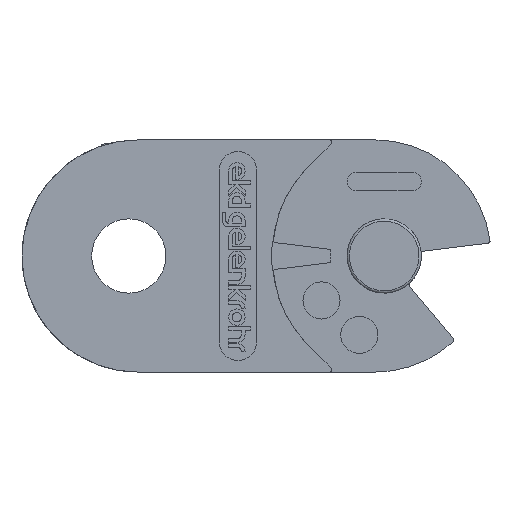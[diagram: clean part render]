
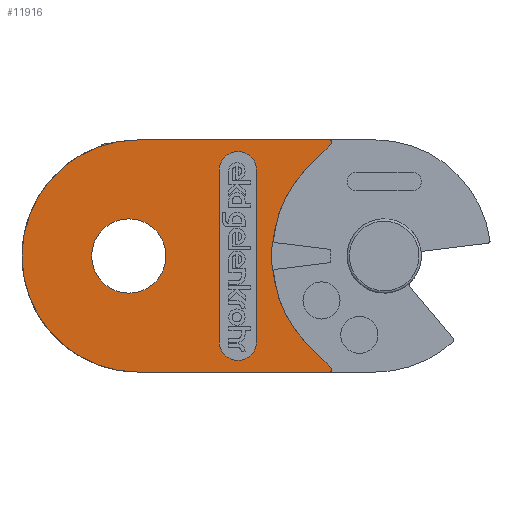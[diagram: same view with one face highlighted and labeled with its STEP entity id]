
A CAD part, left-side view. The second image highlights one B-rep face of the part: STEP entity #11916.
In plain terms, the highlighted planar face has unit normal (-1, 0, 0) as drawn and (1, 0, 0) by its records, which use the part's own axes.
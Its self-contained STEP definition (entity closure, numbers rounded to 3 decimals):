
#7971=CARTESIAN_POINT('',(0.0,-25.5,50.));
#7972=VERTEX_POINT('',#7971);
#7979=CARTESIAN_POINT('',(0.0,15.73,50.));
#7980=VERTEX_POINT('',#7979);
#7981=CARTESIAN_POINT('',(0.0,-25.5,50.));
#7982=DIRECTION('',(0.0,1.0,0.0));
#7983=VECTOR('',#7982,41.23);
#7984=LINE('',#7981,#7983);
#7985=EDGE_CURVE('',#7972,#7980,#7984,.T.);
#11241=CARTESIAN_POINT('',(0.,0.,43.5));
#11242=VERTEX_POINT('',#11241);
#11249=CARTESIAN_POINT('',(0.,-8.,43.5));
#11250=VERTEX_POINT('',#11249);
#11251=CARTESIAN_POINT('',(0.,-4.,43.5));
#11252=DIRECTION('',(-1.0,0.0,0.0));
#11253=DIRECTION('',(0.0,-1.0,0.0));
#11254=AXIS2_PLACEMENT_3D('',#11251,#11252,#11253);
#11255=CIRCLE('',#11254,4.);
#11256=EDGE_CURVE('',#11250,#11242,#11255,.T.);
#11273=CARTESIAN_POINT('',(0.,-8.,6.5));
#11274=VERTEX_POINT('',#11273);
#11281=CARTESIAN_POINT('',(0.,0.,6.5));
#11282=VERTEX_POINT('',#11281);
#11283=CARTESIAN_POINT('',(0.,-4.,6.5));
#11284=DIRECTION('',(-1.0,0.0,0.0));
#11285=DIRECTION('',(0.0,1.0,0.0));
#11286=AXIS2_PLACEMENT_3D('',#11283,#11284,#11285);
#11287=CIRCLE('',#11286,4.);
#11288=EDGE_CURVE('',#11282,#11274,#11287,.T.);
#11789=CARTESIAN_POINT('',(0.,-8.,6.5));
#11790=DIRECTION('',(0.0,0.0,1.0));
#11791=VECTOR('',#11790,37.);
#11792=LINE('',#11789,#11791);
#11793=EDGE_CURVE('',#11274,#11250,#11792,.T.);
#11804=CARTESIAN_POINT('',(0.,0.,43.5));
#11805=DIRECTION('',(0.0,0.0,-1.0));
#11806=VECTOR('',#11805,37.);
#11807=LINE('',#11804,#11806);
#11808=EDGE_CURVE('',#11242,#11282,#11807,.T.);
#11815=CARTESIAN_POINT('',(0.0,1.743,25.006));
#11816=DIRECTION('',(1.0,0.0,0.0));
#11817=DIRECTION('',(0.0,1.0,0.0));
#11818=AXIS2_PLACEMENT_3D('',#11815,#11816,#11817);
#11819=PLANE('',#11818);
#11820=CARTESIAN_POINT('',(0.0,15.73,0.));
#11821=VERTEX_POINT('',#11820);
#11822=CARTESIAN_POINT('',(0.0,-25.5,0.));
#11823=VERTEX_POINT('',#11822);
#11824=CARTESIAN_POINT('',(0.0,15.73,0.));
#11825=DIRECTION('',(0.0,-1.0,0.0));
#11826=VECTOR('',#11825,41.23);
#11827=LINE('',#11824,#11826);
#11828=EDGE_CURVE('',#11821,#11823,#11827,.T.);
#11829=ORIENTED_EDGE('',*,*,#11828,.F.);
#11830=CARTESIAN_POINT('',(0.0,16.084,0.854));
#11831=VERTEX_POINT('',#11830);
#11832=CARTESIAN_POINT('',(0.0,15.73,0.5));
#11833=DIRECTION('',(1.0,0.0,0.0));
#11834=DIRECTION('',(0.0,0.0,1.0));
#11835=AXIS2_PLACEMENT_3D('',#11832,#11833,#11834);
#11836=CIRCLE('',#11835,0.5);
#11837=EDGE_CURVE('',#11821,#11831,#11836,.T.);
#11838=ORIENTED_EDGE('',*,*,#11837,.T.);
#11839=CARTESIAN_POINT('',(0.0,10.969,5.969));
#11840=VERTEX_POINT('',#11839);
#11841=CARTESIAN_POINT('',(0.0,16.084,0.854));
#11842=DIRECTION('',(0.0,-0.707,0.707));
#11843=VECTOR('',#11842,7.234);
#11844=LINE('',#11841,#11843);
#11845=EDGE_CURVE('',#11831,#11840,#11844,.T.);
#11846=ORIENTED_EDGE('',*,*,#11845,.T.);
#11847=CARTESIAN_POINT('',(0.0,3.907,19.46));
#11848=VERTEX_POINT('',#11847);
#11849=CARTESIAN_POINT('',(0.0,29.,24.));
#11850=DIRECTION('',(-1.0,0.,0.));
#11851=DIRECTION('',(0.,-1.0,0.));
#11852=AXIS2_PLACEMENT_3D('',#11849,#11850,#11851);
#11853=CIRCLE('',#11852,25.5);
#11854=EDGE_CURVE('',#11840,#11848,#11853,.T.);
#11855=ORIENTED_EDGE('',*,*,#11854,.T.);
#11856=CARTESIAN_POINT('',(0.0,3.907,30.54));
#11857=VERTEX_POINT('',#11856);
#11858=CARTESIAN_POINT('',(0.,27.5,25.));
#11859=DIRECTION('',(-1.0,0.,0.));
#11860=DIRECTION('',(0.,-0.974,0.229));
#11861=AXIS2_PLACEMENT_3D('',#11858,#11859,#11860);
#11862=CIRCLE('',#11861,24.234);
#11863=EDGE_CURVE('',#11848,#11857,#11862,.T.);
#11864=ORIENTED_EDGE('',*,*,#11863,.T.);
#11865=CARTESIAN_POINT('',(0.0,10.969,44.031));
#11866=VERTEX_POINT('',#11865);
#11867=CARTESIAN_POINT('',(0.0,29.,26.));
#11868=DIRECTION('',(-1.0,0.,0.));
#11869=DIRECTION('',(0.,-0.707,0.707));
#11870=AXIS2_PLACEMENT_3D('',#11867,#11868,#11869);
#11871=CIRCLE('',#11870,25.5);
#11872=EDGE_CURVE('',#11857,#11866,#11871,.T.);
#11873=ORIENTED_EDGE('',*,*,#11872,.T.);
#11874=CARTESIAN_POINT('',(0.0,16.084,49.146));
#11875=VERTEX_POINT('',#11874);
#11876=CARTESIAN_POINT('',(0.0,10.969,44.031));
#11877=DIRECTION('',(0.0,0.707,0.707));
#11878=VECTOR('',#11877,7.234);
#11879=LINE('',#11876,#11878);
#11880=EDGE_CURVE('',#11866,#11875,#11879,.T.);
#11881=ORIENTED_EDGE('',*,*,#11880,.T.);
#11882=CARTESIAN_POINT('',(0.0,15.73,49.5));
#11883=DIRECTION('',(1.,0.,0.));
#11884=DIRECTION('',(0.,-0.707,0.707));
#11885=AXIS2_PLACEMENT_3D('',#11882,#11883,#11884);
#11886=CIRCLE('',#11885,0.5);
#11887=EDGE_CURVE('',#11875,#7980,#11886,.T.);
#11888=ORIENTED_EDGE('',*,*,#11887,.T.);
#11889=ORIENTED_EDGE('',*,*,#7985,.F.);
#11890=CARTESIAN_POINT('',(0.0,-25.5,25.));
#11891=DIRECTION('',(-1.0,0.0,0.0));
#11892=DIRECTION('',(0.0,0.0,1.0));
#11893=AXIS2_PLACEMENT_3D('',#11890,#11891,#11892);
#11894=CIRCLE('',#11893,25.);
#11895=EDGE_CURVE('',#11823,#7972,#11894,.T.);
#11896=ORIENTED_EDGE('',*,*,#11895,.F.);
#11897=EDGE_LOOP('',(#11829,#11838,#11846,#11855,#11864,#11873,#11881,#11888,#11889,#11896));
#11898=FACE_OUTER_BOUND('',#11897,.T.);
#11899=ORIENTED_EDGE('',*,*,#11793,.T.);
#11900=ORIENTED_EDGE('',*,*,#11256,.T.);
#11901=ORIENTED_EDGE('',*,*,#11808,.T.);
#11902=ORIENTED_EDGE('',*,*,#11288,.T.);
#11903=EDGE_LOOP('',(#11899,#11900,#11901,#11902));
#11904=FACE_BOUND('',#11903,.T.);
#11905=CARTESIAN_POINT('',(0.,-19.5,25.));
#11906=VERTEX_POINT('',#11905);
#11907=CARTESIAN_POINT('',(0.0,-27.5,25.));
#11908=DIRECTION('',(-1.0,0.0,0.0));
#11909=DIRECTION('',(0.0,-1.0,0.0));
#11910=AXIS2_PLACEMENT_3D('',#11907,#11908,#11909);
#11911=CIRCLE('',#11910,8.0);
#11912=EDGE_CURVE('',#11906,#11906,#11911,.T.);
#11913=ORIENTED_EDGE('',*,*,#11912,.T.);
#11914=EDGE_LOOP('',(#11913));
#11915=FACE_BOUND('',#11914,.T.);
#11916=ADVANCED_FACE('',(#11898,#11904,#11915),#11819,.T.);
